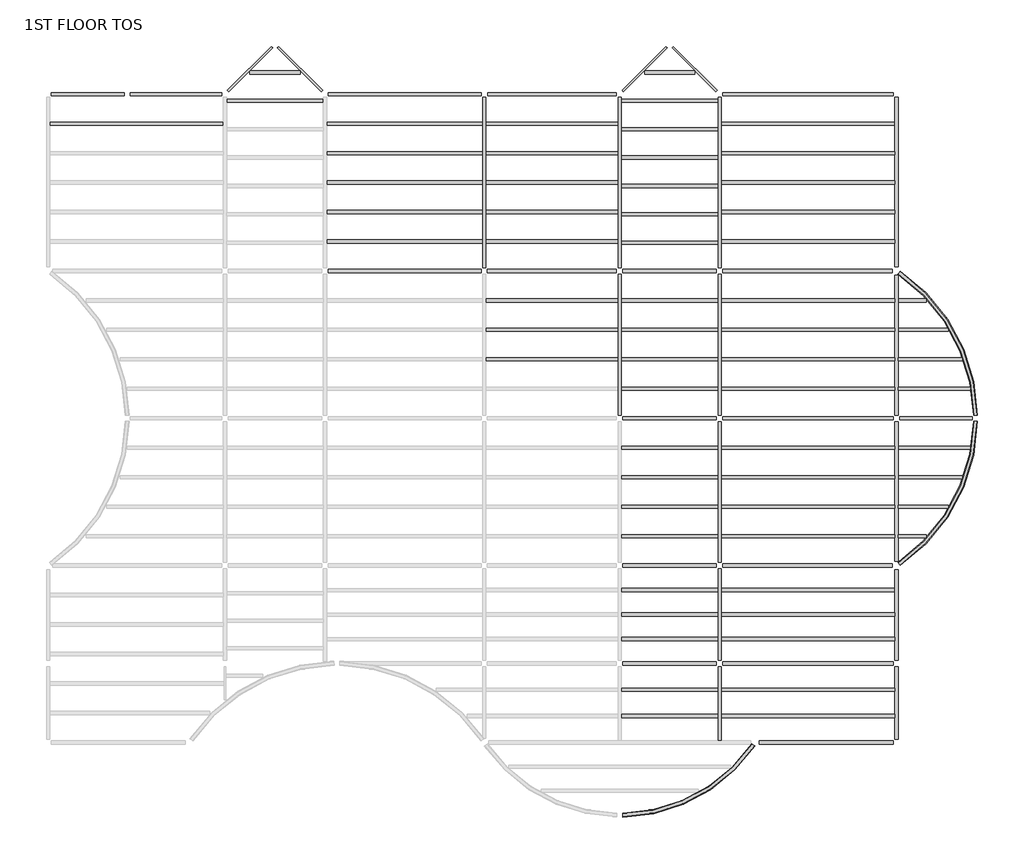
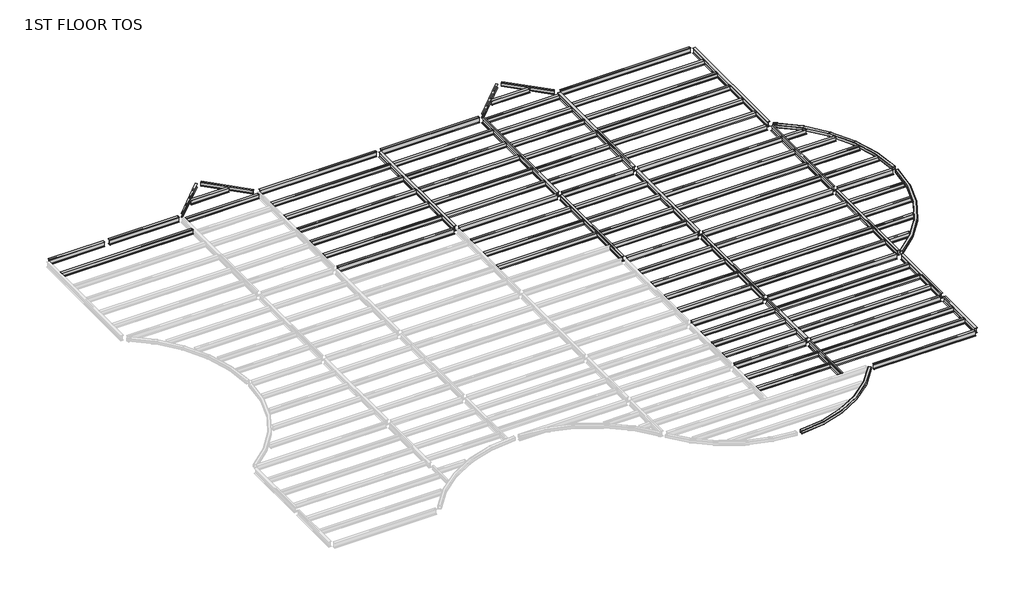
# One storey, part 2 of 2: 99 beams.
"""IFC4 building model written with IfcOpenShell, lengths in millimetres."""

from ifc_helpers import new_model, si_unit, origin, place, context, project, spatial, transform, mapped, element, save
from components import m_hss_square_hss203_2x203_2x9_5_28e91a4e, m_hss_square_hss203_2x203_2x9_5_f31329aa, m_hss_square_hss203_2x203_2x9_5_63507dff, ub_universal_beams_ub254x102x28_7812688d, ub_universal_beams_ub254x102x28_4a38c177, ub_universal_beams_ub305x165x40_c4d0385b, ub_universal_beams_ub305x165x40_19965e16, ub_universal_beams_ub305x165x40_d3abc31d, ub_universal_beams_ub305x165x40_0c73730f, ub_universal_beams_ub305x165x40_2a963f0c, ub_universal_beams_ub305x165x40_9ce7f2ee, ub_universal_beams_ub305x165x40_d184adfd, ub_universal_beams_ub305x165x40_bc7dc938, ub_universal_beams_ub305x165x40_b4233d25, ub_universal_beams_ub356x171x51_c708c058, ub_universal_beams_ub356x171x51_ef72dcdd, ub_universal_beams_ub356x171x51_10b3c54f, ub_universal_beams_ub356x171x51_4c9fd821, ub_universal_beams_ub356x171x51_d1a87c3c, ub_universal_beams_ub356x171x51_fa75724b, ub_universal_beams_ub356x171x51_68db896e, ub_universal_beams_ub356x171x51_c634c4a6, ub_universal_beams_ub356x171x51_995f1560, ub_universal_beams_ub356x171x51_dfc36663, ub_universal_beams_ub356x171x51_11d6b780, ub_universal_beams_ub356x171x51_76b2d20b, ub_universal_beams_ub356x171x51_145ecd4b, ub_universal_beams_ub356x171x51_c7dff8d2, ub_universal_beams_ub356x171x51_8a345439, ub_universal_beams_ub356x171x51_6da510e9, ub_universal_beams_ub356x171x51_e97f8d2e, ub_universal_beams_ub356x171x51_a38b99de, ub_universal_beams_ub356x171x51_d8f4cdde, ub_universal_beams_ub356x171x51_475301e6, ub_universal_beams_ub356x171x51_c03c70fb, ub_universal_beams_ub356x171x51_741bae58

model = new_model("IFC4")

# Units and contexts
model_context = context("Model", 3, world=origin())
ifc_project = project(units=[si_unit("LENGTHUNIT", "METRE", prefix="MILLI")], contexts=[model_context])

# Site, building, storey
site = spatial("IfcSite", under=ifc_project)
building = spatial("IfcBuilding", under=site)
storey = spatial("IfcBuildingStorey", under=building, Name="1ST FLOOR TOS", Elevation=4419.6)

# Beams
placement = place(None, origin())
m_hss_square_hss203_2x203_2x9_5_shape = m_hss_square_hss203_2x203_2x9_5_28e91a4e(model_context)
element("IfcBeam", 1, ObjectType="M_HSS Square : HSS203.2X203.2X9.5", at=placement, inside=storey, context=model_context, shape_type="MappedRepresentation", body=[
    mapped(m_hss_square_hss203_2x203_2x9_5_shape, transform((44027.575, 24539.575, 4318.1), x_axis=(0.8332810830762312, -0.5528495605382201, 0.0), y_axis=(0.5528495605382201, 0.8332810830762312, 0.0), z_axis=(0.0, 0.0, 1.0))),
])
m_hss_square_hss203_2x203_2x9_5_2_shape = m_hss_square_hss203_2x203_2x9_5_f31329aa(model_context)
element("IfcBeam", 2, ObjectType="M_HSS Square : HSS203.2X203.2X9.5", at=placement, inside=storey, context=model_context, shape_type="MappedRepresentation", body=[
    mapped(m_hss_square_hss203_2x203_2x9_5_2_shape, transform((44027.575, 9299.575, 4318.1), x_axis=(0.8332810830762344, 0.5528495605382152, 0.0), y_axis=(-0.5528495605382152, 0.8332810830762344, 0.0), z_axis=(0.0, 0.0, 1.0))),
])
m_hss_square_hss203_2x203_2x9_5_3_shape = m_hss_square_hss203_2x203_2x9_5_63507dff(model_context)
element("IfcBeam", 3, ObjectType="M_HSS Square : HSS203.2X203.2X9.5", at=placement, inside=storey, context=model_context, shape_type="MappedRepresentation", body=[
    mapped(m_hss_square_hss203_2x203_2x9_5_3_shape, transform((36716.575, 155.575, 4318.1), x_axis=(-0.5530174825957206, -0.8331696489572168, 0.0), y_axis=(0.8331696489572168, -0.5530174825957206, 0.0), z_axis=(0.0, 0.0, 1.0))),
])
ub_universal_beams_ub254x102x28_shape = ub_universal_beams_ub254x102x28_7812688d(model_context)
element("IfcBeam", 4, ObjectType="UB-Universal Beams : UB254x102x28", at=placement, inside=storey, context=model_context, shape_type="MappedRepresentation", body=[
    mapped(ub_universal_beams_ub254x102x28_shape, transform((10592.575, 34976.575, 4289.4), x_axis=(0.7071067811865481, 0.7071067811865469, 0.0), y_axis=(-0.7071067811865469, 0.7071067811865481, 0.0), z_axis=(0.0, 0.0, 1.0))),
])
element("IfcBeam", 5, ObjectType="UB-Universal Beams : UB254x102x28", at=placement, inside=storey, context=model_context, shape_type="MappedRepresentation", body=[
    mapped(ub_universal_beams_ub254x102x28_shape, transform((31004.575, 34976.575, 4289.4), x_axis=(0.7071067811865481, 0.7071067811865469, 0.0), y_axis=(-0.7071067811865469, 0.7071067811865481, 0.0), z_axis=(0.0, 0.0, 1.0))),
])
ub_universal_beams_ub254x102x28_2_shape = ub_universal_beams_ub254x102x28_4a38c177(model_context)
element("IfcBeam", 6, ObjectType="UB-Universal Beams : UB254x102x28", at=placement, inside=storey, context=model_context, shape_type="MappedRepresentation", body=[
    mapped(ub_universal_beams_ub254x102x28_2_shape, transform((13178.575, 34976.575, 4289.4), x_axis=(0.707106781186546, -0.707106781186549, 0.0), y_axis=(0.707106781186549, 0.707106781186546, 0.0), z_axis=(0.0, 0.0, 1.0))),
])
element("IfcBeam", 7, ObjectType="UB-Universal Beams : UB254x102x28", at=placement, inside=storey, context=model_context, shape_type="MappedRepresentation", body=[
    mapped(ub_universal_beams_ub254x102x28_2_shape, transform((33590.575, 34976.575, 4289.4), x_axis=(0.7071067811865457, -0.7071067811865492, 0.0), y_axis=(0.7071067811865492, 0.7071067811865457, 0.0), z_axis=(0.0, 0.0, 1.0))),
])
ub_universal_beams_ub305x165x40_shape = ub_universal_beams_ub305x165x40_c4d0385b(model_context)
element("IfcBeam", 8, ObjectType="UB-Universal Beams : UB305x165x40", at=placement, inside=storey, context=model_context, shape_type="MappedRepresentation", body=[
    mapped(ub_universal_beams_ub305x165x40_shape, transform((4727.575, 32159.575, 4267.9), x_axis=(1.0, 0.0, 0.0), y_axis=(0.0, 1.0, 0.0), z_axis=(0.0, 0.0, 1.0))),
])
element("IfcBeam", 9, ObjectType="UB-Universal Beams : UB305x165x40", at=placement, inside=storey, context=model_context, shape_type="MappedRepresentation", body=[
    mapped(ub_universal_beams_ub305x165x40_shape, transform((39455.575, 32159.575, 4267.9), x_axis=(1.0, 0.0, 0.0), y_axis=(0.0, 1.0, 0.0), z_axis=(0.0, 0.0, 1.0))),
])
element("IfcBeam", 10, ObjectType="UB-Universal Beams : UB305x165x40", at=placement, inside=storey, context=model_context, shape_type="MappedRepresentation", body=[
    mapped(ub_universal_beams_ub305x165x40_shape, transform((39455.575, 30635.575, 4267.9), x_axis=(1.0, 0.0, 0.0), y_axis=(0.0, 1.0, 0.0), z_axis=(0.0, 0.0, 1.0))),
])
element("IfcBeam", 11, ObjectType="UB-Universal Beams : UB305x165x40", at=placement, inside=storey, context=model_context, shape_type="MappedRepresentation", body=[
    mapped(ub_universal_beams_ub305x165x40_shape, transform((39455.575, 29111.575, 4267.9), x_axis=(1.0, 0.0, 0.0), y_axis=(0.0, 1.0, 0.0), z_axis=(0.0, 0.0, 1.0))),
])
element("IfcBeam", 12, ObjectType="UB-Universal Beams : UB305x165x40", at=placement, inside=storey, context=model_context, shape_type="MappedRepresentation", body=[
    mapped(ub_universal_beams_ub305x165x40_shape, transform((39455.575, 27587.575, 4267.9), x_axis=(1.0, 0.0, 0.0), y_axis=(0.0, 1.0, 0.0), z_axis=(0.0, 0.0, 1.0))),
])
element("IfcBeam", 13, ObjectType="UB-Universal Beams : UB305x165x40", at=placement, inside=storey, context=model_context, shape_type="MappedRepresentation", body=[
    mapped(ub_universal_beams_ub305x165x40_shape, transform((39455.575, 26063.575, 4267.9), x_axis=(1.0, 0.0, 0.0), y_axis=(0.0, 1.0, 0.0), z_axis=(0.0, 0.0, 1.0))),
])
element("IfcBeam", 14, ObjectType="UB-Universal Beams : UB305x165x40", at=placement, inside=storey, context=model_context, shape_type="MappedRepresentation", body=[
    mapped(ub_universal_beams_ub305x165x40_shape, transform((39455.575, 23015.575, 4267.9), x_axis=(1.0, 0.0, 0.0), y_axis=(0.0, 1.0, 0.0), z_axis=(0.0, 0.0, 1.0))),
])
element("IfcBeam", 15, ObjectType="UB-Universal Beams : UB305x165x40", at=placement, inside=storey, context=model_context, shape_type="MappedRepresentation", body=[
    mapped(ub_universal_beams_ub305x165x40_shape, transform((39455.575, 21491.575, 4267.9), x_axis=(1.0, 0.0, 0.0), y_axis=(0.0, 1.0, 0.0), z_axis=(0.0, 0.0, 1.0))),
])
element("IfcBeam", 16, ObjectType="UB-Universal Beams : UB305x165x40", at=placement, inside=storey, context=model_context, shape_type="MappedRepresentation", body=[
    mapped(ub_universal_beams_ub305x165x40_shape, transform((39455.575, 19967.575, 4267.9), x_axis=(1.0, 0.0, 0.0), y_axis=(0.0, 1.0, 0.0), z_axis=(0.0, 0.0, 1.0))),
])
element("IfcBeam", 17, ObjectType="UB-Universal Beams : UB305x165x40", at=placement, inside=storey, context=model_context, shape_type="MappedRepresentation", body=[
    mapped(ub_universal_beams_ub305x165x40_shape, transform((39455.575, 18443.575, 4267.9), x_axis=(1.0, 0.0, 0.0), y_axis=(0.0, 1.0, 0.0), z_axis=(0.0, 0.0, 1.0))),
])
element("IfcBeam", 18, ObjectType="UB-Universal Beams : UB305x165x40", at=placement, inside=storey, context=model_context, shape_type="MappedRepresentation", body=[
    mapped(ub_universal_beams_ub305x165x40_shape, transform((39455.575, 15395.575, 4267.9), x_axis=(1.0, 0.0, 0.0), y_axis=(0.0, 1.0, 0.0), z_axis=(0.0, 0.0, 1.0))),
])
element("IfcBeam", 19, ObjectType="UB-Universal Beams : UB305x165x40", at=placement, inside=storey, context=model_context, shape_type="MappedRepresentation", body=[
    mapped(ub_universal_beams_ub305x165x40_shape, transform((39455.575, 13871.575, 4267.9), x_axis=(1.0, 0.0, 0.0), y_axis=(0.0, 1.0, 0.0), z_axis=(0.0, 0.0, 1.0))),
])
element("IfcBeam", 20, ObjectType="UB-Universal Beams : UB305x165x40", at=placement, inside=storey, context=model_context, shape_type="MappedRepresentation", body=[
    mapped(ub_universal_beams_ub305x165x40_shape, transform((39455.575, 12347.575, 4267.9), x_axis=(1.0, 0.0, 0.0), y_axis=(0.0, 1.0, 0.0), z_axis=(0.0, 0.0, 1.0))),
])
element("IfcBeam", 21, ObjectType="UB-Universal Beams : UB305x165x40", at=placement, inside=storey, context=model_context, shape_type="MappedRepresentation", body=[
    mapped(ub_universal_beams_ub305x165x40_shape, transform((39455.575, 10823.575, 4267.9), x_axis=(1.0, 0.0, 0.0), y_axis=(0.0, 1.0, 0.0), z_axis=(0.0, 0.0, 1.0))),
])
element("IfcBeam", 22, ObjectType="UB-Universal Beams : UB305x165x40", at=placement, inside=storey, context=model_context, shape_type="MappedRepresentation", body=[
    mapped(ub_universal_beams_ub305x165x40_shape, transform((39455.575, 5508.325, 4267.9), x_axis=(-1.0, 0.0, 0.0), y_axis=(0.0, -1.0, 0.0), z_axis=(0.0, 0.0, 1.0))),
])
element("IfcBeam", 23, ObjectType="UB-Universal Beams : UB305x165x40", at=placement, inside=storey, context=model_context, shape_type="MappedRepresentation", body=[
    mapped(ub_universal_beams_ub305x165x40_shape, transform((39455.575, 6772.075, 4267.9), x_axis=(-1.0, 0.0, 0.0), y_axis=(0.0, -1.0, 0.0), z_axis=(0.0, 0.0, 1.0))),
])
element("IfcBeam", 24, ObjectType="UB-Universal Beams : UB305x165x40", at=placement, inside=storey, context=model_context, shape_type="MappedRepresentation", body=[
    mapped(ub_universal_beams_ub305x165x40_shape, transform((39455.575, 8035.825, 4267.9), x_axis=(-1.0, 0.0, 0.0), y_axis=(0.0, -1.0, 0.0), z_axis=(0.0, 0.0, 1.0))),
])
element("IfcBeam", 25, ObjectType="UB-Universal Beams : UB305x165x40", at=placement, inside=storey, context=model_context, shape_type="MappedRepresentation", body=[
    mapped(ub_universal_beams_ub305x165x40_shape, transform((39455.575, 1518.575, 4267.9), x_axis=(-1.0, 0.0, 0.0), y_axis=(0.0, -1.0, 0.0), z_axis=(0.0, 0.0, 1.0))),
])
element("IfcBeam", 26, ObjectType="UB-Universal Beams : UB305x165x40", at=placement, inside=storey, context=model_context, shape_type="MappedRepresentation", body=[
    mapped(ub_universal_beams_ub305x165x40_shape, transform((39455.575, 2881.575, 4267.9), x_axis=(-1.0, 0.0, 0.0), y_axis=(0.0, -1.0, 0.0), z_axis=(0.0, 0.0, 1.0))),
])
ub_universal_beams_ub305x165x40_2_shape = ub_universal_beams_ub305x165x40_19965e16(model_context)
element("IfcBeam", 27, ObjectType="UB-Universal Beams : UB305x165x40", at=placement, inside=storey, context=model_context, shape_type="MappedRepresentation", body=[
    mapped(ub_universal_beams_ub305x165x40_2_shape, transform((11885.575, 34803.325, 4267.9), x_axis=(1.0, 0.0, 0.0), y_axis=(0.0, 1.0, 0.0), z_axis=(0.0, 0.0, 1.0))),
])
element("IfcBeam", 28, ObjectType="UB-Universal Beams : UB305x165x40", at=placement, inside=storey, context=model_context, shape_type="MappedRepresentation", body=[
    mapped(ub_universal_beams_ub305x165x40_2_shape, transform((32297.575, 34803.325, 4267.9), x_axis=(1.0, 0.0, 0.0), y_axis=(0.0, 1.0, 0.0), z_axis=(0.0, 0.0, 1.0))),
])
ub_universal_beams_ub305x165x40_3_shape = ub_universal_beams_ub305x165x40_d3abc31d(model_context)
element("IfcBeam", 29, ObjectType="UB-Universal Beams : UB305x165x40", at=placement, inside=storey, context=model_context, shape_type="MappedRepresentation", body=[
    mapped(ub_universal_beams_ub305x165x40_3_shape, transform((11885.575, 33337.075, 4267.9), x_axis=(1.0, 0.0, 0.0), y_axis=(0.0, 1.0, 0.0), z_axis=(0.0, 0.0, 1.0))),
])
element("IfcBeam", 30, ObjectType="UB-Universal Beams : UB305x165x40", at=placement, inside=storey, context=model_context, shape_type="MappedRepresentation", body=[
    mapped(ub_universal_beams_ub305x165x40_3_shape, transform((32297.575, 33337.075, 4267.9), x_axis=(1.0, 0.0, 0.0), y_axis=(0.0, 1.0, 0.0), z_axis=(0.0, 0.0, 1.0))),
])
element("IfcBeam", 31, ObjectType="UB-Universal Beams : UB305x165x40", at=placement, inside=storey, context=model_context, shape_type="MappedRepresentation", body=[
    mapped(ub_universal_beams_ub305x165x40_3_shape, transform((32297.575, 31870.825, 4267.9), x_axis=(1.0, 0.0, 0.0), y_axis=(0.0, 1.0, 0.0), z_axis=(0.0, 0.0, 1.0))),
])
element("IfcBeam", 32, ObjectType="UB-Universal Beams : UB305x165x40", at=placement, inside=storey, context=model_context, shape_type="MappedRepresentation", body=[
    mapped(ub_universal_beams_ub305x165x40_3_shape, transform((32297.575, 30404.575, 4267.9), x_axis=(1.0, 0.0, 0.0), y_axis=(0.0, 1.0, 0.0), z_axis=(0.0, 0.0, 1.0))),
])
element("IfcBeam", 33, ObjectType="UB-Universal Beams : UB305x165x40", at=placement, inside=storey, context=model_context, shape_type="MappedRepresentation", body=[
    mapped(ub_universal_beams_ub305x165x40_3_shape, transform((32297.575, 28938.325, 4267.9), x_axis=(1.0, 0.0, 0.0), y_axis=(0.0, 1.0, 0.0), z_axis=(0.0, 0.0, 1.0))),
])
element("IfcBeam", 34, ObjectType="UB-Universal Beams : UB305x165x40", at=placement, inside=storey, context=model_context, shape_type="MappedRepresentation", body=[
    mapped(ub_universal_beams_ub305x165x40_3_shape, transform((32297.575, 27472.075, 4267.9), x_axis=(1.0, 0.0, 0.0), y_axis=(0.0, 1.0, 0.0), z_axis=(0.0, 0.0, 1.0))),
])
element("IfcBeam", 35, ObjectType="UB-Universal Beams : UB305x165x40", at=placement, inside=storey, context=model_context, shape_type="MappedRepresentation", body=[
    mapped(ub_universal_beams_ub305x165x40_3_shape, transform((32297.575, 26005.825, 4267.9), x_axis=(1.0, 0.0, 0.0), y_axis=(0.0, 1.0, 0.0), z_axis=(0.0, 0.0, 1.0))),
])
element("IfcBeam", 36, ObjectType="UB-Universal Beams : UB305x165x40", at=placement, inside=storey, context=model_context, shape_type="MappedRepresentation", body=[
    mapped(ub_universal_beams_ub305x165x40_3_shape, transform((32297.575, 1518.575, 4267.9), x_axis=(-1.0, 0.0, 0.0), y_axis=(0.0, -1.0, 0.0), z_axis=(0.0, 0.0, 1.0))),
])
element("IfcBeam", 37, ObjectType="UB-Universal Beams : UB305x165x40", at=placement, inside=storey, context=model_context, shape_type="MappedRepresentation", body=[
    mapped(ub_universal_beams_ub305x165x40_3_shape, transform((32297.575, 2881.575, 4267.9), x_axis=(-1.0, 0.0, 0.0), y_axis=(0.0, -1.0, 0.0), z_axis=(0.0, 0.0, 1.0))),
])
element("IfcBeam", 38, ObjectType="UB-Universal Beams : UB305x165x40", at=placement, inside=storey, context=model_context, shape_type="MappedRepresentation", body=[
    mapped(ub_universal_beams_ub305x165x40_3_shape, transform((32297.575, 5508.325, 4267.9), x_axis=(-1.0, 0.0, 0.0), y_axis=(0.0, -1.0, 0.0), z_axis=(0.0, 0.0, 1.0))),
])
element("IfcBeam", 39, ObjectType="UB-Universal Beams : UB305x165x40", at=placement, inside=storey, context=model_context, shape_type="MappedRepresentation", body=[
    mapped(ub_universal_beams_ub305x165x40_3_shape, transform((32297.575, 6772.075, 4267.9), x_axis=(-1.0, 0.0, 0.0), y_axis=(0.0, -1.0, 0.0), z_axis=(0.0, 0.0, 1.0))),
])
element("IfcBeam", 40, ObjectType="UB-Universal Beams : UB305x165x40", at=placement, inside=storey, context=model_context, shape_type="MappedRepresentation", body=[
    mapped(ub_universal_beams_ub305x165x40_3_shape, transform((32297.575, 8035.825, 4267.9), x_axis=(-1.0, 0.0, 0.0), y_axis=(0.0, -1.0, 0.0), z_axis=(0.0, 0.0, 1.0))),
])
element("IfcBeam", 41, ObjectType="UB-Universal Beams : UB305x165x40", at=placement, inside=storey, context=model_context, shape_type="MappedRepresentation", body=[
    mapped(ub_universal_beams_ub305x165x40_3_shape, transform((32297.575, 15395.575, 4267.9), x_axis=(1.0, 0.0, 0.0), y_axis=(0.0, 1.0, 0.0), z_axis=(0.0, 0.0, 1.0))),
])
element("IfcBeam", 42, ObjectType="UB-Universal Beams : UB305x165x40", at=placement, inside=storey, context=model_context, shape_type="MappedRepresentation", body=[
    mapped(ub_universal_beams_ub305x165x40_3_shape, transform((32297.575, 13871.575, 4267.9), x_axis=(1.0, 0.0, 0.0), y_axis=(0.0, 1.0, 0.0), z_axis=(0.0, 0.0, 1.0))),
])
element("IfcBeam", 43, ObjectType="UB-Universal Beams : UB305x165x40", at=placement, inside=storey, context=model_context, shape_type="MappedRepresentation", body=[
    mapped(ub_universal_beams_ub305x165x40_3_shape, transform((32297.575, 12347.575, 4267.9), x_axis=(1.0, 0.0, 0.0), y_axis=(0.0, 1.0, 0.0), z_axis=(0.0, 0.0, 1.0))),
])
element("IfcBeam", 44, ObjectType="UB-Universal Beams : UB305x165x40", at=placement, inside=storey, context=model_context, shape_type="MappedRepresentation", body=[
    mapped(ub_universal_beams_ub305x165x40_3_shape, transform((32297.575, 10823.575, 4267.9), x_axis=(1.0, 0.0, 0.0), y_axis=(0.0, 1.0, 0.0), z_axis=(0.0, 0.0, 1.0))),
])
element("IfcBeam", 45, ObjectType="UB-Universal Beams : UB305x165x40", at=placement, inside=storey, context=model_context, shape_type="MappedRepresentation", body=[
    mapped(ub_universal_beams_ub305x165x40_3_shape, transform((32297.575, 23015.575, 4267.9), x_axis=(1.0, 0.0, 0.0), y_axis=(0.0, 1.0, 0.0), z_axis=(0.0, 0.0, 1.0))),
])
element("IfcBeam", 46, ObjectType="UB-Universal Beams : UB305x165x40", at=placement, inside=storey, context=model_context, shape_type="MappedRepresentation", body=[
    mapped(ub_universal_beams_ub305x165x40_3_shape, transform((32297.575, 21491.575, 4267.9), x_axis=(1.0, 0.0, 0.0), y_axis=(0.0, 1.0, 0.0), z_axis=(0.0, 0.0, 1.0))),
])
element("IfcBeam", 47, ObjectType="UB-Universal Beams : UB305x165x40", at=placement, inside=storey, context=model_context, shape_type="MappedRepresentation", body=[
    mapped(ub_universal_beams_ub305x165x40_3_shape, transform((32297.575, 19967.575, 4267.9), x_axis=(1.0, 0.0, 0.0), y_axis=(0.0, 1.0, 0.0), z_axis=(0.0, 0.0, 1.0))),
])
element("IfcBeam", 48, ObjectType="UB-Universal Beams : UB305x165x40", at=placement, inside=storey, context=model_context, shape_type="MappedRepresentation", body=[
    mapped(ub_universal_beams_ub305x165x40_3_shape, transform((32297.575, 18443.575, 4267.9), x_axis=(1.0, 0.0, 0.0), y_axis=(0.0, 1.0, 0.0), z_axis=(0.0, 0.0, 1.0))),
])
ub_universal_beams_ub305x165x40_4_shape = ub_universal_beams_ub305x165x40_0c73730f(model_context)
element("IfcBeam", 49, ObjectType="UB-Universal Beams : UB305x165x40", at=placement, inside=storey, context=model_context, shape_type="MappedRepresentation", body=[
    mapped(ub_universal_beams_ub305x165x40_4_shape, transform((18591.075, 32159.575, 4267.9), x_axis=(1.0, 0.0, 0.0), y_axis=(0.0, 1.0, 0.0), z_axis=(0.0, 0.0, 1.0))),
])
element("IfcBeam", 50, ObjectType="UB-Universal Beams : UB305x165x40", at=placement, inside=storey, context=model_context, shape_type="MappedRepresentation", body=[
    mapped(ub_universal_beams_ub305x165x40_4_shape, transform((18591.075, 30635.575, 4267.9), x_axis=(1.0, 0.0, 0.0), y_axis=(0.0, 1.0, 0.0), z_axis=(0.0, 0.0, 1.0))),
])
element("IfcBeam", 51, ObjectType="UB-Universal Beams : UB305x165x40", at=placement, inside=storey, context=model_context, shape_type="MappedRepresentation", body=[
    mapped(ub_universal_beams_ub305x165x40_4_shape, transform((18591.075, 29111.575, 4267.9), x_axis=(1.0, 0.0, 0.0), y_axis=(0.0, 1.0, 0.0), z_axis=(0.0, 0.0, 1.0))),
])
element("IfcBeam", 52, ObjectType="UB-Universal Beams : UB305x165x40", at=placement, inside=storey, context=model_context, shape_type="MappedRepresentation", body=[
    mapped(ub_universal_beams_ub305x165x40_4_shape, transform((18591.075, 27587.575, 4267.9), x_axis=(1.0, 0.0, 0.0), y_axis=(0.0, 1.0, 0.0), z_axis=(0.0, 0.0, 1.0))),
])
element("IfcBeam", 53, ObjectType="UB-Universal Beams : UB305x165x40", at=placement, inside=storey, context=model_context, shape_type="MappedRepresentation", body=[
    mapped(ub_universal_beams_ub305x165x40_4_shape, transform((18591.075, 26063.575, 4267.9), x_axis=(1.0, 0.0, 0.0), y_axis=(0.0, 1.0, 0.0), z_axis=(0.0, 0.0, 1.0))),
])
ub_universal_beams_ub305x165x40_5_shape = ub_universal_beams_ub305x165x40_2a963f0c(model_context)
element("IfcBeam", 54, ObjectType="UB-Universal Beams : UB305x165x40", at=placement, inside=storey, context=model_context, shape_type="MappedRepresentation", body=[
    mapped(ub_universal_beams_ub305x165x40_5_shape, transform((26211.075, 32159.575, 4267.9), x_axis=(1.0, 0.0, 0.0), y_axis=(0.0, 1.0, 0.0), z_axis=(0.0, 0.0, 1.0))),
])
element("IfcBeam", 55, ObjectType="UB-Universal Beams : UB305x165x40", at=placement, inside=storey, context=model_context, shape_type="MappedRepresentation", body=[
    mapped(ub_universal_beams_ub305x165x40_5_shape, transform((26211.075, 30635.575, 4267.9), x_axis=(1.0, 0.0, 0.0), y_axis=(0.0, 1.0, 0.0), z_axis=(0.0, 0.0, 1.0))),
])
element("IfcBeam", 56, ObjectType="UB-Universal Beams : UB305x165x40", at=placement, inside=storey, context=model_context, shape_type="MappedRepresentation", body=[
    mapped(ub_universal_beams_ub305x165x40_5_shape, transform((26211.075, 29111.575, 4267.9), x_axis=(1.0, 0.0, 0.0), y_axis=(0.0, 1.0, 0.0), z_axis=(0.0, 0.0, 1.0))),
])
element("IfcBeam", 57, ObjectType="UB-Universal Beams : UB305x165x40", at=placement, inside=storey, context=model_context, shape_type="MappedRepresentation", body=[
    mapped(ub_universal_beams_ub305x165x40_5_shape, transform((26211.075, 27587.575, 4267.9), x_axis=(1.0, 0.0, 0.0), y_axis=(0.0, 1.0, 0.0), z_axis=(0.0, 0.0, 1.0))),
])
element("IfcBeam", 58, ObjectType="UB-Universal Beams : UB305x165x40", at=placement, inside=storey, context=model_context, shape_type="MappedRepresentation", body=[
    mapped(ub_universal_beams_ub305x165x40_5_shape, transform((26211.075, 26063.575, 4267.9), x_axis=(1.0, 0.0, 0.0), y_axis=(0.0, 1.0, 0.0), z_axis=(0.0, 0.0, 1.0))),
])
element("IfcBeam", 59, ObjectType="UB-Universal Beams : UB305x165x40", at=placement, inside=storey, context=model_context, shape_type="MappedRepresentation", body=[
    mapped(ub_universal_beams_ub305x165x40_5_shape, transform((26211.075, 23015.575, 4267.9), x_axis=(1.0, 0.0, 0.0), y_axis=(0.0, 1.0, 0.0), z_axis=(0.0, 0.0, 1.0))),
])
element("IfcBeam", 60, ObjectType="UB-Universal Beams : UB305x165x40", at=placement, inside=storey, context=model_context, shape_type="MappedRepresentation", body=[
    mapped(ub_universal_beams_ub305x165x40_5_shape, transform((26211.075, 21491.575, 4267.9), x_axis=(1.0, 0.0, 0.0), y_axis=(0.0, 1.0, 0.0), z_axis=(0.0, 0.0, 1.0))),
])
element("IfcBeam", 61, ObjectType="UB-Universal Beams : UB305x165x40", at=placement, inside=storey, context=model_context, shape_type="MappedRepresentation", body=[
    mapped(ub_universal_beams_ub305x165x40_5_shape, transform((26211.075, 19967.575, 4267.9), x_axis=(1.0, 0.0, 0.0), y_axis=(0.0, 1.0, 0.0), z_axis=(0.0, 0.0, 1.0))),
])
ub_universal_beams_ub305x165x40_6_shape = ub_universal_beams_ub305x165x40_9ce7f2ee(model_context)
element("IfcBeam", 62, ObjectType="UB-Universal Beams : UB305x165x40", at=placement, inside=storey, context=model_context, shape_type="MappedRepresentation", body=[
    mapped(ub_universal_beams_ub305x165x40_6_shape, transform((44907.9405309, 23015.575, 4267.9), x_axis=(1.0, 0.0, 0.0), y_axis=(0.0, 1.0, 0.0), z_axis=(0.0, 0.0, 1.0))),
])
element("IfcBeam", 63, ObjectType="UB-Universal Beams : UB305x165x40", at=placement, inside=storey, context=model_context, shape_type="MappedRepresentation", body=[
    mapped(ub_universal_beams_ub305x165x40_6_shape, transform((44907.9405309, 10823.575, 4267.9), x_axis=(1.0, 0.0, 0.0), y_axis=(0.0, 1.0, 0.0), z_axis=(0.0, 0.0, 1.0))),
])
ub_universal_beams_ub305x165x40_7_shape = ub_universal_beams_ub305x165x40_d184adfd(model_context)
element("IfcBeam", 64, ObjectType="UB-Universal Beams : UB305x165x40", at=placement, inside=storey, context=model_context, shape_type="MappedRepresentation", body=[
    mapped(ub_universal_beams_ub305x165x40_7_shape, transform((45459.5874928, 21491.575, 4267.9), x_axis=(1.0, 0.0, 0.0), y_axis=(0.0, 1.0, 0.0), z_axis=(0.0, 0.0, 1.0))),
])
element("IfcBeam", 65, ObjectType="UB-Universal Beams : UB305x165x40", at=placement, inside=storey, context=model_context, shape_type="MappedRepresentation", body=[
    mapped(ub_universal_beams_ub305x165x40_7_shape, transform((45459.5874928, 12347.575, 4267.9), x_axis=(1.0, 0.0, 0.0), y_axis=(0.0, 1.0, 0.0), z_axis=(0.0, 0.0, 1.0))),
])
ub_universal_beams_ub305x165x40_8_shape = ub_universal_beams_ub305x165x40_bc7dc938(model_context)
element("IfcBeam", 66, ObjectType="UB-Universal Beams : UB305x165x40", at=placement, inside=storey, context=model_context, shape_type="MappedRepresentation", body=[
    mapped(ub_universal_beams_ub305x165x40_8_shape, transform((45810.6153272, 19967.575, 4267.9), x_axis=(1.0, 0.0, 0.0), y_axis=(0.0, 1.0, 0.0), z_axis=(0.0, 0.0, 1.0))),
])
element("IfcBeam", 67, ObjectType="UB-Universal Beams : UB305x165x40", at=placement, inside=storey, context=model_context, shape_type="MappedRepresentation", body=[
    mapped(ub_universal_beams_ub305x165x40_8_shape, transform((45810.6153272, 13871.575, 4267.9), x_axis=(1.0, 0.0, 0.0), y_axis=(0.0, 1.0, 0.0), z_axis=(0.0, 0.0, 1.0))),
])
ub_universal_beams_ub305x165x40_9_shape = ub_universal_beams_ub305x165x40_b4233d25(model_context)
element("IfcBeam", 68, ObjectType="UB-Universal Beams : UB305x165x40", at=placement, inside=storey, context=model_context, shape_type="MappedRepresentation", body=[
    mapped(ub_universal_beams_ub305x165x40_9_shape, transform((46008.1318611, 18443.575, 4267.9), x_axis=(1.0, 0.0, 0.0), y_axis=(0.0, 1.0, 0.0), z_axis=(0.0, 0.0, 1.0))),
])
element("IfcBeam", 69, ObjectType="UB-Universal Beams : UB305x165x40", at=placement, inside=storey, context=model_context, shape_type="MappedRepresentation", body=[
    mapped(ub_universal_beams_ub305x165x40_9_shape, transform((46008.1318611, 15395.575, 4267.9), x_axis=(1.0, 0.0, 0.0), y_axis=(0.0, 1.0, 0.0), z_axis=(0.0, 0.0, 1.0))),
])
ub_universal_beams_ub356x171x51_shape = ub_universal_beams_ub356x171x51_c708c058(model_context)
element("IfcBeam", 70, ObjectType="UB-Universal Beams : UB356x171x51", at=placement, inside=storey, context=model_context, shape_type="MappedRepresentation", body=[
    mapped(ub_universal_beams_ub356x171x51_shape, transform((2200.075, 33683.575, 4242.1), x_axis=(1.0, 0.0, 0.0), y_axis=(0.0, 1.0, 0.0), z_axis=(0.0, 0.0, 1.0))),
])
ub_universal_beams_ub356x171x51_2_shape = ub_universal_beams_ub356x171x51_ef72dcdd(model_context)
element("IfcBeam", 71, ObjectType="UB-Universal Beams : UB356x171x51", at=placement, inside=storey, context=model_context, shape_type="MappedRepresentation", body=[
    mapped(ub_universal_beams_ub356x171x51_2_shape, transform((6772.075, 33683.575, 4242.1), x_axis=(1.0, 0.0, 0.0), y_axis=(0.0, 1.0, 0.0), z_axis=(0.0, 0.0, 1.0))),
])
element("IfcBeam", 72, ObjectType="UB-Universal Beams : UB356x171x51", at=placement, inside=storey, context=model_context, shape_type="MappedRepresentation", body=[
    mapped(ub_universal_beams_ub356x171x51_2_shape, transform((34883.575, 6772.075, 4242.1), x_axis=(0.0, -1.0, 0.0), y_axis=(1.0, 0.0, 0.0), z_axis=(0.0, 0.0, 1.0))),
])
ub_universal_beams_ub356x171x51_3_shape = ub_universal_beams_ub356x171x51_10b3c54f(model_context)
element("IfcBeam", 73, ObjectType="UB-Universal Beams : UB356x171x51", at=placement, inside=storey, context=model_context, shape_type="MappedRepresentation", body=[
    mapped(ub_universal_beams_ub356x171x51_3_shape, transform((18591.075, 33683.575, 4242.1), x_axis=(1.0, 0.0, 0.0), y_axis=(0.0, 1.0, 0.0), z_axis=(0.0, 0.0, 1.0))),
])
ub_universal_beams_ub356x171x51_4_shape = ub_universal_beams_ub356x171x51_4c9fd821(model_context)
element("IfcBeam", 74, ObjectType="UB-Universal Beams : UB356x171x51", at=placement, inside=storey, context=model_context, shape_type="MappedRepresentation", body=[
    mapped(ub_universal_beams_ub356x171x51_4_shape, transform((26211.075, 33683.575, 4242.1), x_axis=(1.0, 0.0, 0.0), y_axis=(0.0, 1.0, 0.0), z_axis=(0.0, 0.0, 1.0))),
])
ub_universal_beams_ub356x171x51_5_shape = ub_universal_beams_ub356x171x51_d1a87c3c(model_context)
element("IfcBeam", 75, ObjectType="UB-Universal Beams : UB356x171x51", at=placement, inside=storey, context=model_context, shape_type="MappedRepresentation", body=[
    mapped(ub_universal_beams_ub356x171x51_5_shape, transform((39455.575, 33683.575, 4242.1), x_axis=(1.0, 0.0, 0.0), y_axis=(0.0, 1.0, 0.0), z_axis=(0.0, 0.0, 1.0))),
])
ub_universal_beams_ub356x171x51_6_shape = ub_universal_beams_ub356x171x51_fa75724b(model_context)
element("IfcBeam", 76, ObjectType="UB-Universal Beams : UB356x171x51", at=placement, inside=storey, context=model_context, shape_type="MappedRepresentation", body=[
    mapped(ub_universal_beams_ub356x171x51_6_shape, transform((44027.575, 29111.575, 4242.1), x_axis=(0.0, -1.0, 0.0), y_axis=(1.0, 0.0, 0.0), z_axis=(0.0, 0.0, 1.0))),
])
ub_universal_beams_ub356x171x51_7_shape = ub_universal_beams_ub356x171x51_68db896e(model_context)
element("IfcBeam", 77, ObjectType="UB-Universal Beams : UB356x171x51", at=placement, inside=storey, context=model_context, shape_type="MappedRepresentation", body=[
    mapped(ub_universal_beams_ub356x171x51_7_shape, transform((44027.575, 6772.075, 4242.1), x_axis=(0.0, -1.0, 0.0), y_axis=(1.0, 0.0, 0.0), z_axis=(0.0, 0.0, 1.0))),
])
ub_universal_beams_ub356x171x51_8_shape = ub_universal_beams_ub356x171x51_c634c4a6(model_context)
element("IfcBeam", 78, ObjectType="UB-Universal Beams : UB356x171x51", at=placement, inside=storey, context=model_context, shape_type="MappedRepresentation", body=[
    mapped(ub_universal_beams_ub356x171x51_8_shape, transform((44027.575, 2200.075, 4242.1), x_axis=(0.0, -1.0, 0.0), y_axis=(1.0, 0.0, 0.0), z_axis=(0.0, 0.0, 1.0))),
])
ub_universal_beams_ub356x171x51_9_shape = ub_universal_beams_ub356x171x51_995f1560(model_context)
element("IfcBeam", 79, ObjectType="UB-Universal Beams : UB356x171x51", at=placement, inside=storey, context=model_context, shape_type="MappedRepresentation", body=[
    mapped(ub_universal_beams_ub356x171x51_9_shape, transform((40372.075, 155.575, 4242.1), x_axis=(-1.0, 0.0, 0.0), y_axis=(0.0, -1.0, 0.0), z_axis=(0.0, 0.0, 1.0))),
])
ub_universal_beams_ub356x171x51_10_shape = ub_universal_beams_ub356x171x51_dfc36663(model_context)
element("IfcBeam", 80, ObjectType="UB-Universal Beams : UB356x171x51", at=placement, inside=storey, context=model_context, shape_type="MappedRepresentation", body=[
    mapped(ub_universal_beams_ub356x171x51_10_shape, transform((46072.075, 16919.575, 4242.1), x_axis=(1.0, 0.0, 0.0), y_axis=(0.0, 1.0, 0.0), z_axis=(0.0, 0.0, 1.0))),
])
ub_universal_beams_ub356x171x51_11_shape = ub_universal_beams_ub356x171x51_11d6b780(model_context)
element("IfcBeam", 81, ObjectType="UB-Universal Beams : UB356x171x51", at=placement, inside=storey, context=model_context, shape_type="MappedRepresentation", body=[
    mapped(ub_universal_beams_ub356x171x51_11_shape, transform((32297.575, 24539.575, 4242.1), x_axis=(1.0, 0.0, 0.0), y_axis=(0.0, 1.0, 0.0), z_axis=(0.0, 0.0, 1.0))),
])
element("IfcBeam", 82, ObjectType="UB-Universal Beams : UB356x171x51", at=placement, inside=storey, context=model_context, shape_type="MappedRepresentation", body=[
    mapped(ub_universal_beams_ub356x171x51_11_shape, transform((32297.575, 9299.575, 4242.1), x_axis=(-1.0, 0.0, 0.0), y_axis=(0.0, -1.0, 0.0), z_axis=(0.0, 0.0, 1.0))),
])
element("IfcBeam", 83, ObjectType="UB-Universal Beams : UB356x171x51", at=placement, inside=storey, context=model_context, shape_type="MappedRepresentation", body=[
    mapped(ub_universal_beams_ub356x171x51_11_shape, transform((32297.575, 16919.575, 4242.1), x_axis=(1.0, 0.0, 0.0), y_axis=(0.0, 1.0, 0.0), z_axis=(0.0, 0.0, 1.0))),
])
element("IfcBeam", 84, ObjectType="UB-Universal Beams : UB356x171x51", at=placement, inside=storey, context=model_context, shape_type="MappedRepresentation", body=[
    mapped(ub_universal_beams_ub356x171x51_11_shape, transform((32297.575, 4244.575, 4242.1), x_axis=(-1.0, 0.0, 0.0), y_axis=(0.0, -1.0, 0.0), z_axis=(0.0, 0.0, 1.0))),
])
ub_universal_beams_ub356x171x51_12_shape = ub_universal_beams_ub356x171x51_76b2d20b(model_context)
element("IfcBeam", 85, ObjectType="UB-Universal Beams : UB356x171x51", at=placement, inside=storey, context=model_context, shape_type="MappedRepresentation", body=[
    mapped(ub_universal_beams_ub356x171x51_12_shape, transform((18591.075, 24539.575, 4242.1), x_axis=(1.0, 0.0, 0.0), y_axis=(0.0, 1.0, 0.0), z_axis=(0.0, 0.0, 1.0))),
])
ub_universal_beams_ub356x171x51_13_shape = ub_universal_beams_ub356x171x51_145ecd4b(model_context)
element("IfcBeam", 86, ObjectType="UB-Universal Beams : UB356x171x51", at=placement, inside=storey, context=model_context, shape_type="MappedRepresentation", body=[
    mapped(ub_universal_beams_ub356x171x51_13_shape, transform((26211.075, 24539.575, 4242.1), x_axis=(1.0, 0.0, 0.0), y_axis=(0.0, 1.0, 0.0), z_axis=(0.0, 0.0, 1.0))),
])
ub_universal_beams_ub356x171x51_14_shape = ub_universal_beams_ub356x171x51_c7dff8d2(model_context)
element("IfcBeam", 87, ObjectType="UB-Universal Beams : UB356x171x51", at=placement, inside=storey, context=model_context, shape_type="MappedRepresentation", body=[
    mapped(ub_universal_beams_ub356x171x51_14_shape, transform((39455.575, 24539.575, 4242.1), x_axis=(1.0, 0.0, 0.0), y_axis=(0.0, 1.0, 0.0), z_axis=(0.0, 0.0, 1.0))),
])
ub_universal_beams_ub356x171x51_15_shape = ub_universal_beams_ub356x171x51_8a345439(model_context)
element("IfcBeam", 88, ObjectType="UB-Universal Beams : UB356x171x51", at=placement, inside=storey, context=model_context, shape_type="MappedRepresentation", body=[
    mapped(ub_universal_beams_ub356x171x51_15_shape, transform((44027.575, 20729.575, 4242.1), x_axis=(0.0, -1.0, 0.0), y_axis=(1.0, 0.0, 0.0), z_axis=(0.0, 0.0, 1.0))),
])
ub_universal_beams_ub356x171x51_16_shape = ub_universal_beams_ub356x171x51_6da510e9(model_context)
element("IfcBeam", 89, ObjectType="UB-Universal Beams : UB356x171x51", at=placement, inside=storey, context=model_context, shape_type="MappedRepresentation", body=[
    mapped(ub_universal_beams_ub356x171x51_16_shape, transform((44027.575, 13109.575, 4242.1), x_axis=(0.0, -1.0, 0.0), y_axis=(1.0, 0.0, 0.0), z_axis=(0.0, 0.0, 1.0))),
])
ub_universal_beams_ub356x171x51_17_shape = ub_universal_beams_ub356x171x51_e97f8d2e(model_context)
element("IfcBeam", 90, ObjectType="UB-Universal Beams : UB356x171x51", at=placement, inside=storey, context=model_context, shape_type="MappedRepresentation", body=[
    mapped(ub_universal_beams_ub356x171x51_17_shape, transform((39455.575, 9299.575, 4242.1), x_axis=(-1.0, 0.0, 0.0), y_axis=(0.0, -1.0, 0.0), z_axis=(0.0, 0.0, 1.0))),
])
ub_universal_beams_ub356x171x51_18_shape = ub_universal_beams_ub356x171x51_a38b99de(model_context)
element("IfcBeam", 91, ObjectType="UB-Universal Beams : UB356x171x51", at=placement, inside=storey, context=model_context, shape_type="MappedRepresentation", body=[
    mapped(ub_universal_beams_ub356x171x51_18_shape, transform((34883.575, 20729.575, 4242.1), x_axis=(0.0, -1.0, 0.0), y_axis=(1.0, 0.0, 0.0), z_axis=(0.0, 0.0, 1.0))),
])
element("IfcBeam", 92, ObjectType="UB-Universal Beams : UB356x171x51", at=placement, inside=storey, context=model_context, shape_type="MappedRepresentation", body=[
    mapped(ub_universal_beams_ub356x171x51_18_shape, transform((34883.575, 13109.575, 4242.1), x_axis=(0.0, -1.0, 0.0), y_axis=(1.0, 0.0, 0.0), z_axis=(0.0, 0.0, 1.0))),
])
element("IfcBeam", 93, ObjectType="UB-Universal Beams : UB356x171x51", at=placement, inside=storey, context=model_context, shape_type="MappedRepresentation", body=[
    mapped(ub_universal_beams_ub356x171x51_18_shape, transform((29711.575, 20729.575, 4242.1), x_axis=(0.0, 1.0, 0.0), y_axis=(-1.0, 0.0, 0.0), z_axis=(0.0, 0.0, 1.0))),
])
ub_universal_beams_ub356x171x51_19_shape = ub_universal_beams_ub356x171x51_d8f4cdde(model_context)
element("IfcBeam", 94, ObjectType="UB-Universal Beams : UB356x171x51", at=placement, inside=storey, context=model_context, shape_type="MappedRepresentation", body=[
    mapped(ub_universal_beams_ub356x171x51_19_shape, transform((29711.575, 29111.575, 4242.1), x_axis=(0.0, 1.0, 0.0), y_axis=(-1.0, 0.0, 0.0), z_axis=(0.0, 0.0, 1.0))),
])
ub_universal_beams_ub356x171x51_20_shape = ub_universal_beams_ub356x171x51_475301e6(model_context)
element("IfcBeam", 95, ObjectType="UB-Universal Beams : UB356x171x51", at=placement, inside=storey, context=model_context, shape_type="MappedRepresentation", body=[
    mapped(ub_universal_beams_ub356x171x51_20_shape, transform((39455.575, 16919.575, 4242.1), x_axis=(1.0, 0.0, 0.0), y_axis=(0.0, 1.0, 0.0), z_axis=(0.0, 0.0, 1.0))),
])
element("IfcBeam", 96, ObjectType="UB-Universal Beams : UB356x171x51", at=placement, inside=storey, context=model_context, shape_type="MappedRepresentation", body=[
    mapped(ub_universal_beams_ub356x171x51_20_shape, transform((39455.575, 4244.575, 4242.1), x_axis=(-1.0, 0.0, 0.0), y_axis=(0.0, -1.0, 0.0), z_axis=(0.0, 0.0, 1.0))),
])
ub_universal_beams_ub356x171x51_21_shape = ub_universal_beams_ub356x171x51_c03c70fb(model_context)
element("IfcBeam", 97, ObjectType="UB-Universal Beams : UB356x171x51", at=placement, inside=storey, context=model_context, shape_type="MappedRepresentation", body=[
    mapped(ub_universal_beams_ub356x171x51_21_shape, transform((34883.575, 29111.575, 4242.1), x_axis=(0.0, -1.0, 0.0), y_axis=(1.0, 0.0, 0.0), z_axis=(0.0, 0.0, 1.0))),
])
element("IfcBeam", 98, ObjectType="UB-Universal Beams : UB356x171x51", at=placement, inside=storey, context=model_context, shape_type="MappedRepresentation", body=[
    mapped(ub_universal_beams_ub356x171x51_21_shape, transform((22710.575, 29111.575, 4242.1), x_axis=(0.0, -1.0, 0.0), y_axis=(1.0, 0.0, 0.0), z_axis=(0.0, 0.0, 1.0))),
])
ub_universal_beams_ub356x171x51_22_shape = ub_universal_beams_ub356x171x51_741bae58(model_context)
element("IfcBeam", 99, ObjectType="UB-Universal Beams : UB356x171x51", at=placement, inside=storey, context=model_context, shape_type="MappedRepresentation", body=[
    mapped(ub_universal_beams_ub356x171x51_22_shape, transform((34883.575, 2200.075, 4242.1), x_axis=(0.0, -1.0, 0.0), y_axis=(1.0, 0.0, 0.0), z_axis=(0.0, 0.0, 1.0))),
])

save(model, "model.ifc")
